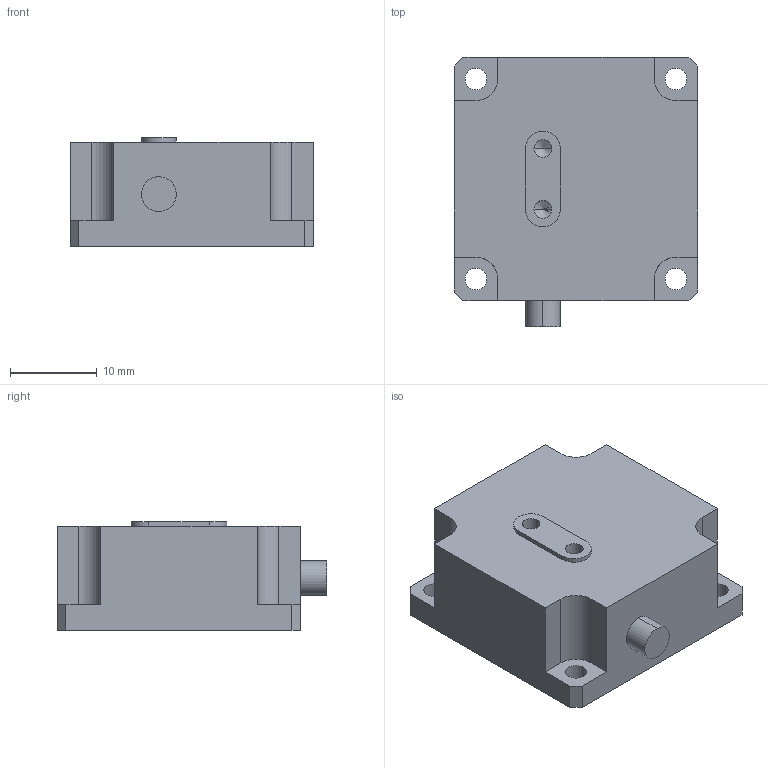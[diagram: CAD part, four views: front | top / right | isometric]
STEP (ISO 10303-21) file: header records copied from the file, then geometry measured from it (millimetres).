
FILE_DESCRIPTION (( 'STEP AP203' ), '1' );
FILE_NAME ('N60俋倛芞.STEP', '2019-11-28T06:21:00', ( '' ), ( '' ), 'SwSTEP 2.0', 'SolidWorks 2016', '' );
FILE_SCHEMA (( 'CONFIG_CONTROL_DESIGN' ));
Products named in the file (1): N60俋倛芞
Bounding box: 28.02 x 31 x 12.5 mm (x, y, z)
Volume: 8499.7 mm3; surface area: 3067.9 mm2
Topology: 1 solids, 1 shells, 918 faces, 2480 edges, 1650 vertices
Faces by surface type: plane 487, bspline 395, cylinder 32, cone 4
Entity records: 41447 total; most frequent: CARTESIAN_POINT 20936, ORIENTED_EDGE 4952, DIRECTION 2798, EDGE_CURVE 2476, VERTEX_POINT 1650, LINE 1622, VECTOR 1622, EDGE_LOOP 1016
